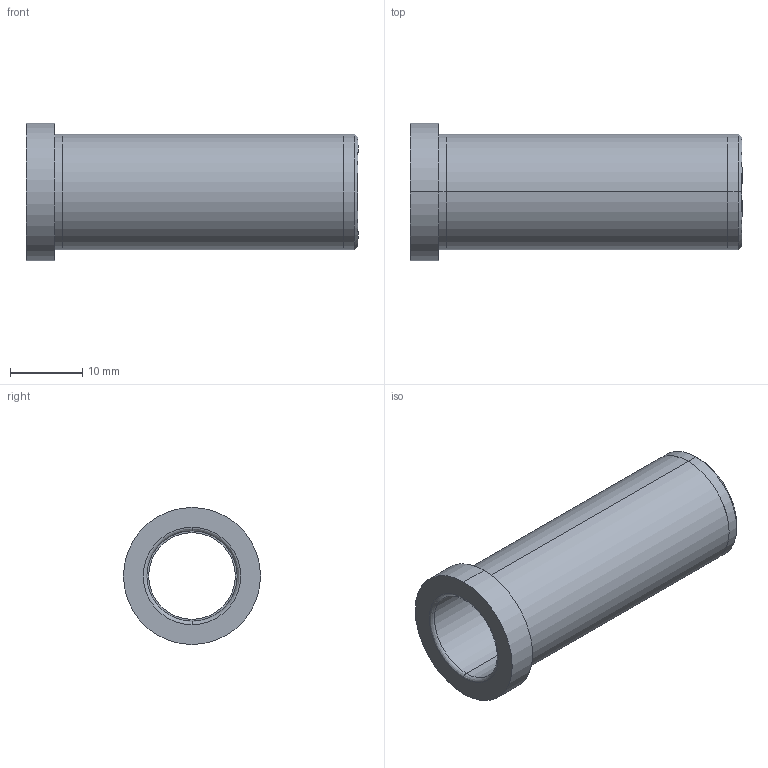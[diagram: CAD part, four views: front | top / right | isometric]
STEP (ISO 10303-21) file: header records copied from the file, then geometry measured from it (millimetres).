
FILE_DESCRIPTION( ( 'STEP AP203' ), '1' );
FILE_NAME( 'C:/Projects/D20 - 12x46.step', '2002-12-31T23:39:37', ( ' ' ), ( ' ' ), 'XStep 1.0', ' ', ' ' );
FILE_SCHEMA( ( 'CONFIG_CONTROL_DESIGN' ) );
Length unit declared in the file: metre
Products named in the file (1): 1
Bounding box: 46 x 19 x 19 mm (x, y, z)
Volume: 4289.3 mm3; surface area: 4412.8 mm2
Topology: 1 solids, 1 shells, 24 faces, 48 edges, 30 vertices
Faces by surface type: revolution 14, bspline 10
Entity records: 755 total; most frequent: CARTESIAN_POINT 221, ORIENTED_EDGE 96, DIRECTION 90, EDGE_CURVE 48, AXIS2_PLACEMENT_3D 31, EDGE_LOOP 30, VERTEX_POINT 30, CIRCLE 30
